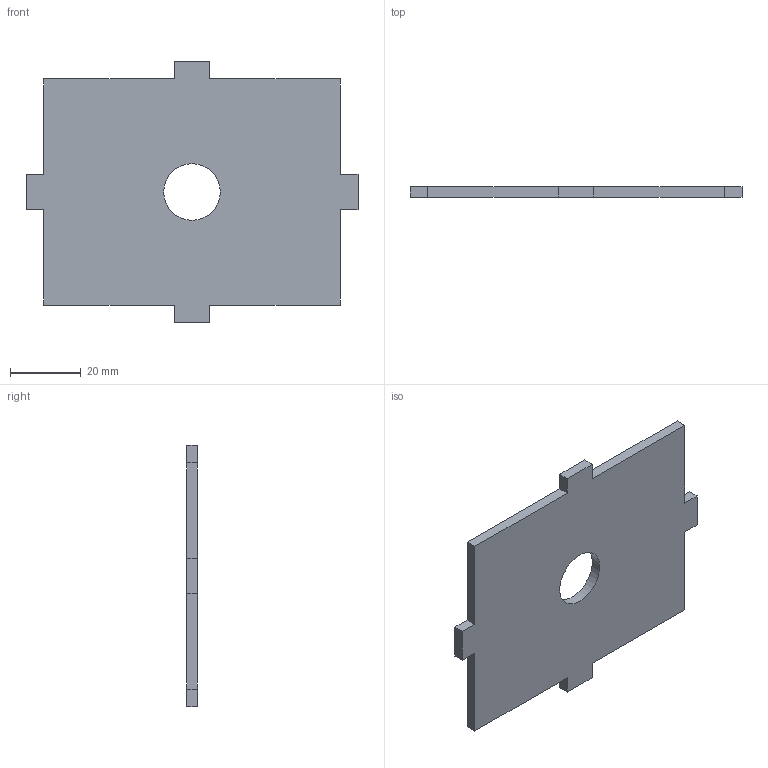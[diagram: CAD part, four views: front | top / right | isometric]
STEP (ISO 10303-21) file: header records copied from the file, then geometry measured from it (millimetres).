
FILE_DESCRIPTION(/* description */ (''),/* implementation_level */ '2;1');
FILE_NAME(/* name */ 'Rear Mid 2_.step',/* time_stamp */ '2023-08-12T23:52:49+03:00',/* author */ (''),/* organization */ (''),/* preprocessor_version */ 'ST-DEVELOPER v20',/* originating_system */ 'Autodesk Translation Framework v12.9.0.99',/* authorisation */ '');
FILE_SCHEMA (('AUTOMOTIVE_DESIGN { 1 0 10303 214 3 1 1 }'));
Length unit declared in the file: millimetre
Products named in the file (1): Rear Mid 2
Bounding box: 94 x 3 x 74 mm (x, y, z)
Volume: 16124.8 mm3; surface area: 11908.7 mm2
Topology: 1 solids, 1 shells, 23 faces, 63 edges, 42 vertices
Faces by surface type: plane 22, cylinder 1
Full cylindrical faces by diameter (mm): 16 x1
Entity records: 756 total; most frequent: CARTESIAN_POINT 129, ORIENTED_EDGE 126, DIRECTION 113, EDGE_CURVE 63, LINE 61, VECTOR 61, VERTEX_POINT 42, AXIS2_PLACEMENT_3D 26
